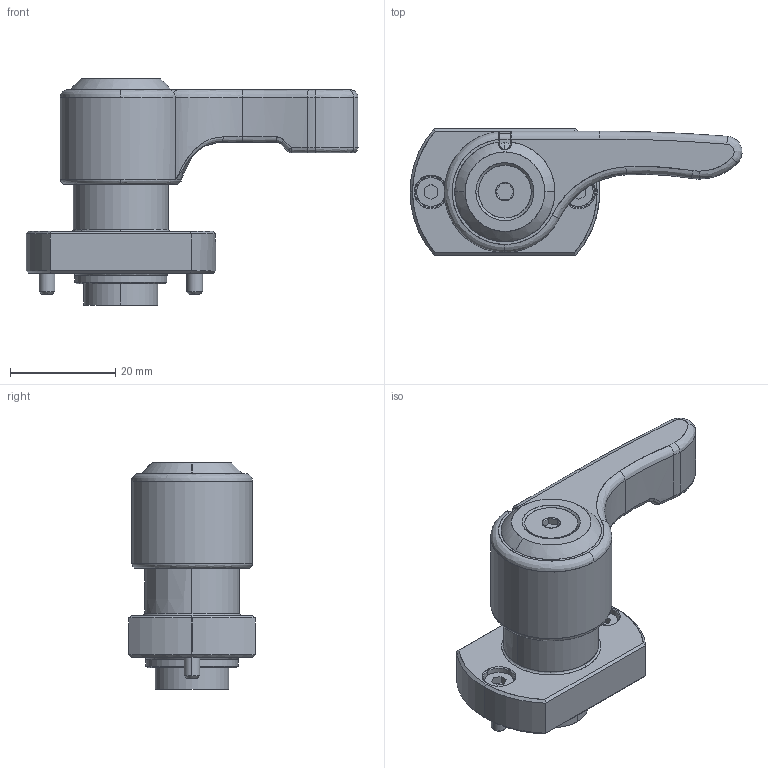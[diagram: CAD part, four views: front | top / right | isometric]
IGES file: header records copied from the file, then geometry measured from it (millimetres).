
Start section: SolidWorks IGES file using analytic representation for surfaces
Global section: file name: Y:\5.更新分\2023年対応\0405_諸々微修正分\QCPS1036-6-S-D\qcps1036-6-s-d.IGS; native system: SolidWorks 2021; preprocessor: SolidWorks 2021; author: ImaoCorp; date: 230407.105600; units: millimetre
Bounding box: 62.99 x 24 x 42.9 mm (x, y, z)
Surface area: 10945.6 mm2 (no closed solid volume)
Topology: 0 solids, 0 shells, 342 faces, 3901 edges, 3899 vertices
Faces by surface type: bspline 189, revolution 153
